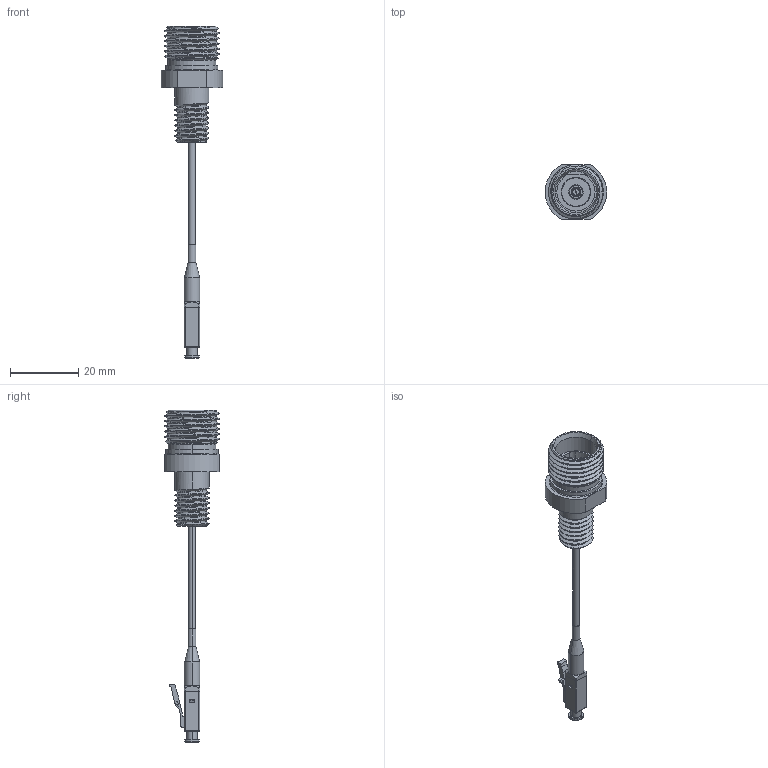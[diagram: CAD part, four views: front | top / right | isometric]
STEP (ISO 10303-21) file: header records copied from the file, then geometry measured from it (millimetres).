
FILE_DESCRIPTION (( 'STEP AP203' ), '1' );
FILE_NAME ('COB-11F0 Bulkhead Fiber.STEP', '2026-09-18T23:34:45', ( '' ), ( '' ), 'SwSTEP 2.0', 'SolidWorks 2024', '' );
FILE_SCHEMA (( 'CONFIG_CONTROL_DESIGN' ));
Length unit declared in the file: millimetre
Products named in the file (1): COB-11F0 Bulkhead Fiber
Bounding box: 17.97 x 16 x 97.04 mm (x, y, z)
Volume: 3492.6 mm3; surface area: 4617.2 mm2
Topology: 1 solids, 3 shells, 335 faces, 846 edges, 539 vertices
Faces by surface type: plane 141, cylinder 123, cone 47, bspline 20, sphere 2, torus 2
Entity records: 17607 total; most frequent: CARTESIAN_POINT 9662, ORIENTED_EDGE 1684, DIRECTION 1588, EDGE_CURVE 842, AXIS2_PLACEMENT_3D 570, VERTEX_POINT 539, LINE 448, VECTOR 448
